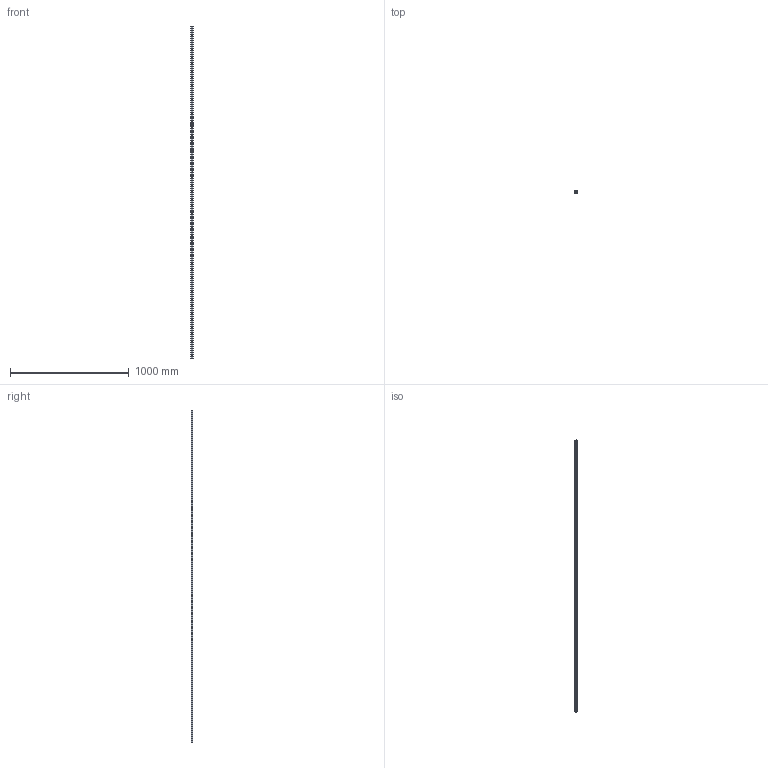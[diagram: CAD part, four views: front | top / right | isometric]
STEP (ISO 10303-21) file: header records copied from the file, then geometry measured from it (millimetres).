
FILE_DESCRIPTION (( 'STEP AP203' ), '1' );
FILE_NAME ('L1016.BL20-2800.step', '2019-06-12T11:54:26', ( '' ), ( '' ), 'SwSTEP 2.0', 'SolidWorks 2017', '' );
FILE_SCHEMA (( 'CONFIG_CONTROL_DESIGN' ));
Length unit declared in the file: millimetre
Products named in the file (1): L1016.BL20-2800
Bounding box: 20 x 16.3 x 2800 mm (x, y, z)
Volume: 778309.3 mm3; surface area: 225253.9 mm2
Topology: 1 solids, 1 shells, 261 faces, 636 edges, 424 vertices
Faces by surface type: cylinder 192, plane 69
Entity records: 8139 total; most frequent: DIRECTION 1544, CARTESIAN_POINT 1322, ORIENTED_EDGE 1272, AXIS2_PLACEMENT_3D 646, EDGE_CURVE 636, VERTEX_POINT 424, EDGE_LOOP 402, CIRCLE 384
